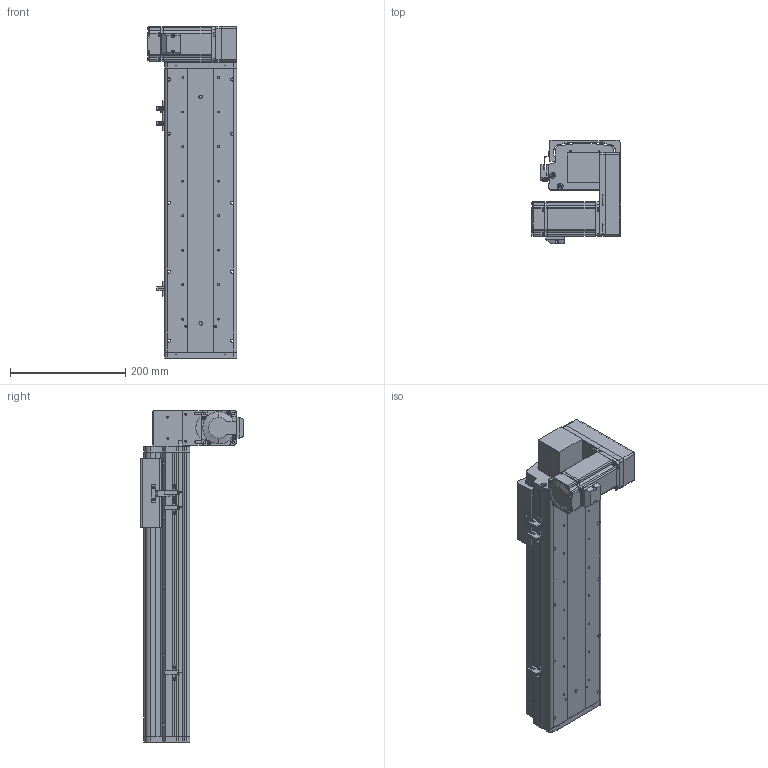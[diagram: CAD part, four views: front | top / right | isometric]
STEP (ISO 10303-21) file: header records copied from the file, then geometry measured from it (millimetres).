
FILE_DESCRIPTION (( 'STEP AP214' ), '1' );
FILE_NAME ('KSD125B-S300-MLD-CM.STEP', '2017-10-21T02:12:55', ( '微软用户' ), ( '微软中国' ), 'SwSTEP 2.0', 'SolidWorks 2014', '' );
FILE_SCHEMA (( 'AUTOMOTIVE_DESIGN' ));
Length unit declared in the file: millimetre
Products named in the file (18): 100宽马达安装板连板上下折丝杆同步带; 100宽马达安装板同步带左; KSD125模组300行程同步带-防尘盖; 125模组300行程同步带-底板; KSD125模组同步带-防撞垫2; 覜茼え68遵圉猾敕; U倰嫖萇假蚾璃; U倰嫖萇EEㄜSX672; KSD125模组同步带-防撞垫1; 前端板-125宽模组同步带; 125模组同步带-尾端板1; KSD125模组同步带-滑动座1; KSD125B-S300-MLD-CM; MHMD042G1CA_2_03; 肣翐M4X25樓6; 悵誘欶奻狟殏; HTPA30S3M150_A_H6_a佪裝蚚; HTPA30S3M150_A_H6_a萇儂蚚
Assembly tree (22 placements, depth 2):
  KSD125B-S300-MLD-CM
    KSD125模组同步带-滑动座1
    125模组同步带-尾端板1
    前端板-125宽模组同步带
    KSD125模组同步带-防撞垫1
    U倰嫖萇EEㄜSX672  x3
    U倰嫖萇假蚾璃  x3
    覜茼え68遵圉猾敕
    KSD125模组同步带-防撞垫2
    125模组300行程同步带-底板
    KSD125模组300行程同步带-防尘盖
    100宽马达安装板同步带左
    100宽马达安装板连板上下折丝杆同步带
    HTPA30S3M150_A_H6_a萇儂蚚
    HTPA30S3M150_A_H6_a佪裝蚚
    悵誘欶奻狟殏
    肣翐M4X25樓6  x2
    MHMD042G1CA_2_03
Bounding box: 155 x 179.5 x 577 mm (x, y, z)
Volume: 2058058 mm3; surface area: 734069.1 mm2
Topology: 21 solids, 24 shells, 2247 faces, 6483 edges, 4280 vertices
Faces by surface type: cylinder 1380, plane 736, cone 109, bspline 22
Entity records: 78899 total; most frequent: CARTESIAN_POINT 15595, DIRECTION 12274, ORIENTED_EDGE 11414, EDGE_CURVE 5785, AXIS2_PLACEMENT_3D 4726, VERTEX_POINT 3851, VECTOR 2822, LINE 2822
